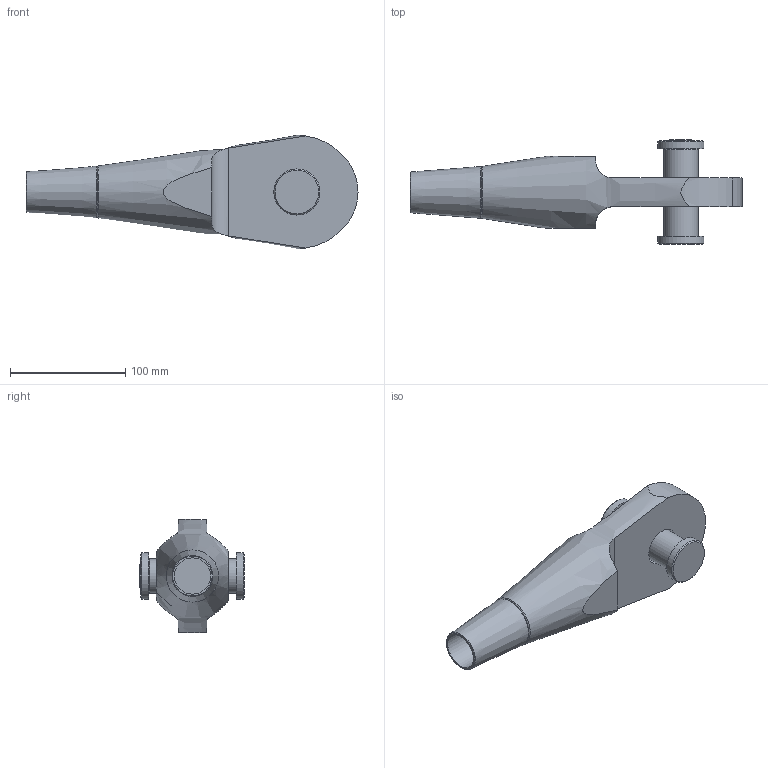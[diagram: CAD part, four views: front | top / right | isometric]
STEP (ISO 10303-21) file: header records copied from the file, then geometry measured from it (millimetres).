
FILE_DESCRIPTION(/* description */ (''),/* implementation_level */ '2;1');
FILE_NAME(/* name */ 'G:\Engineering\700 CAD\Internet-PX-1-step-igs-dxf\520-OES-Arbeitsdateien\520-030-OES.stp',/* time_stamp */ '2020-06-26T10:12:38+02:00',/* author */ ('schwarz'),/* organization */ (''),/* preprocessor_version */ 'ST-DEVELOPER v16.1',/* originating_system */ 'Autodesk Inventor 2016',/* authorisation */ '');
FILE_SCHEMA (('AUTOMOTIVE_DESIGN { 1 0 10303 214 3 1 1 }'));
Length unit declared in the file: centimetre
Products named in the file (1): 520-030-OES-KMU-Kunde
Bounding box: 288 x 90.75 x 98.25 mm (x, y, z)
Volume: 640140 mm3; surface area: 76762.5 mm2
Topology: 2 solids, 3 shells, 49 faces, 108 edges, 70 vertices
Faces by surface type: plane 22, cylinder 14, cone 12, torus 1
Full cylindrical faces by diameter (mm): 8.376 x1, 10 x1, 11 x1, 19.22 x1, 30 x1, 31.5 x1, 33 x1, 40 x2
Entity records: 1358 total; most frequent: CARTESIAN_POINT 320, DIRECTION 198, ORIENTED_EDGE 158, AXIS2_PLACEMENT_3D 89, EDGE_CURVE 79, EDGE_LOOP 78, VERTEX_POINT 63, STYLED_ITEM 51
